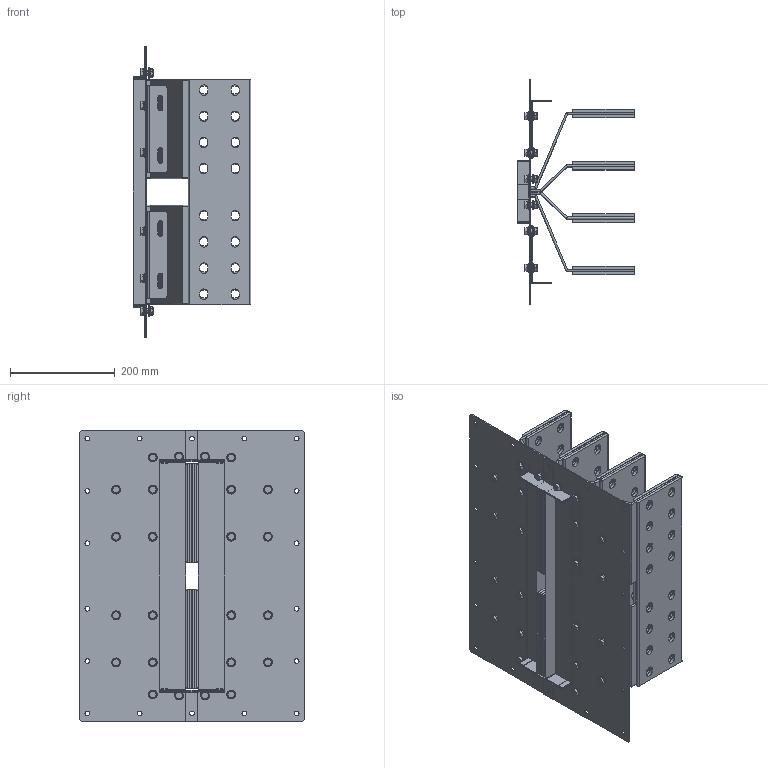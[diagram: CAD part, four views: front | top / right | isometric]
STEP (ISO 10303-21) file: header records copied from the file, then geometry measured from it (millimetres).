
FILE_DESCRIPTION(('CATIA V5 STEP','CAx-IF Rec.Pracs.--- Model Styling and Organization---1.5--- 2016-08-15','CAx-IF Rec.Pracs.---Supplemental Geometry---1.0---2011-11-01','CAx-IF Rec.Pracs.--- Composite Materials ---1.1---2010-07-15'),'2;1');
FILE_NAME('K:\COSCN 2011\32372311_RiduzioneSezioniBarre\03_Studio\__Modelli semplificati\XCP_UB semplificati per studi\XCP-S_UB_4C_Pe_STD_Assieme\Al\XCP-S_UB_4C_Pe_D_Assieme - 3200A Al\XCP-S_UB_4C_Pe_D_Assieme - 3200A Al.stp','2025-05-12T12:38:19+00:00',('Utente Bticino'),('Bticino S.p.A.'),'CATIA Version 5-6 Release 2020 SP5','CATIA V5 STEP AP214 v2','none');
FILE_SCHEMA(('AUTOMOTIVE_DESIGN { 1 0 10303 214 1 1 1 1 }'));
Length unit declared in the file: millimetre
Products named in the file (8): XCP-S_UB_4C_Pe_D_Assieme - 3200A Al; XCP-S_UB_4C_Pe_D_PaccoBarre_3200A Al; XCP-S_UB_4C_Pe_D_Lamiere_3200A Al; XCP-S_UB_4C_Pe_D_PaccoBarre_3200A Al_1; XCP-S_UB_4C_Pe_D - 3200A Al_Bandelle parallelo; Ass Vite+dado M8; Steel hex flanged SCREW M12x16; Steel hex flanged NUT M8
Assembly tree (30 placements, depth 3):
  XCP-S_UB_4C_Pe_D_Assieme - 3200A Al
    XCP-S_UB_4C_Pe_D_PaccoBarre_3200A Al
    XCP-S_UB_4C_Pe_D_Lamiere_3200A Al
    XCP-S_UB_4C_Pe_D_PaccoBarre_3200A Al_1
    XCP-S_UB_4C_Pe_D - 3200A Al_Bandelle parallelo
    Ass Vite+dado M8  x24
      Steel hex flanged SCREW M12x16
      Steel hex flanged NUT M8
Bounding box: 225 x 430 x 555 mm (x, y, z)
Volume: 4723074.8 mm3; surface area: 2531070.6 mm2
Topology: 74 solids, 74 shells, 2404 faces, 6220 edges, 4012 vertices
Faces by surface type: plane 1064, cylinder 908, cone 192, bspline 192, torus 48
Entity records: 41571 total; most frequent: CARTESIAN_POINT 8284, ORIENTED_EDGE 7564, DIRECTION 5128, EDGE_CURVE 3782, VERTEX_POINT 2494, VECTOR 2400, LINE 2400, AXIS2_PLACEMENT_3D 2014
